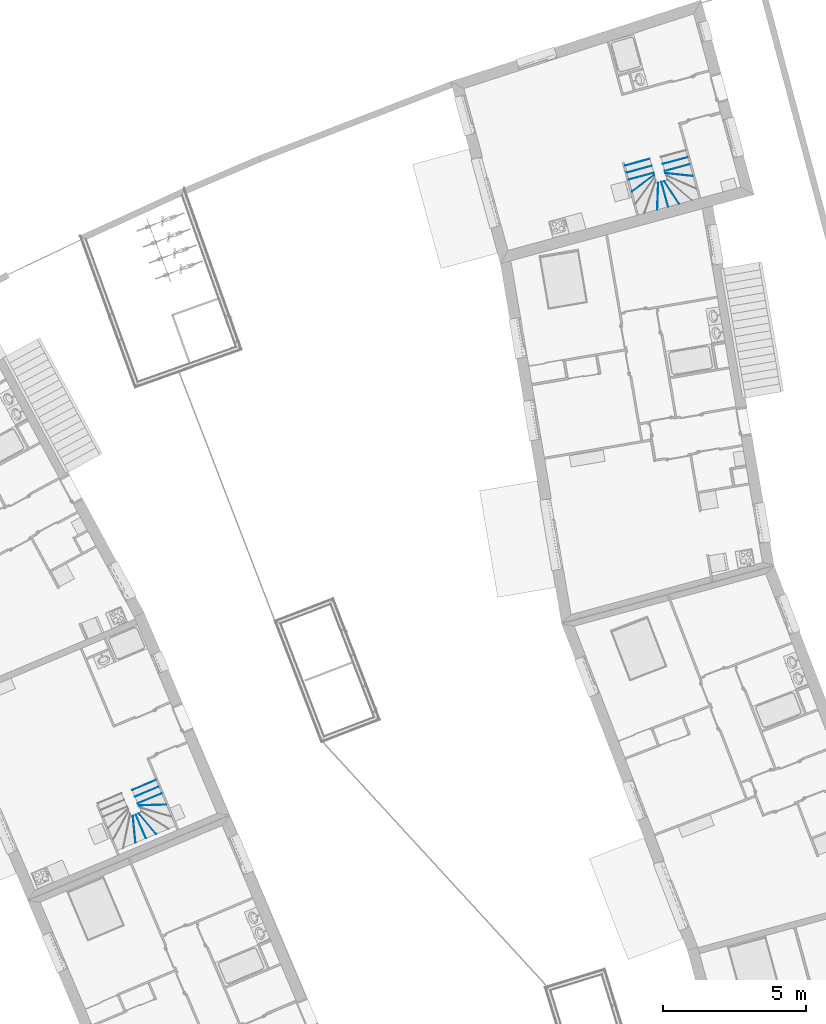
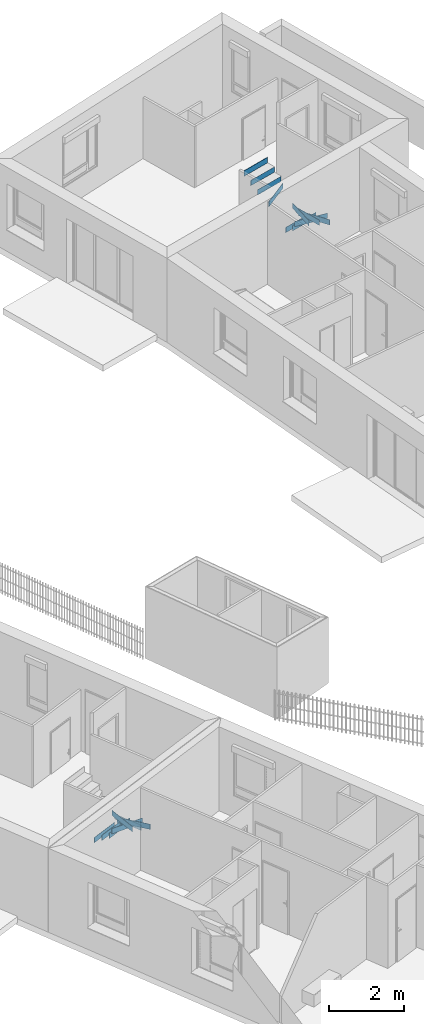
# One storey, part 105 of 195: 33 members, 4 elements without a shape of their own.
"""IFC2X3 building model written with IfcOpenShell, lengths in metres."""

from ifc_helpers import new_model, entity, si_unit, converted_unit, derived_unit, money_unit, direction, frame, origin_with_axes, place, context, subcontext, project, spatial, faceted_brep, material, type_object, element, aggregate, save


model = new_model("IFC2X3")

# Units and contexts
model_context = context("Model", 3, precision=1e-05, world=origin_with_axes(), true_north=direction((0.0, 1.0)))
body_context = subcontext(model_context, "Body", "Model", "MODEL_VIEW")
ifc_project = project(units=[si_unit("LENGTHUNIT", "METRE"), si_unit("AREAUNIT", "SQUARE_METRE"), si_unit("VOLUMEUNIT", "CUBIC_METRE"), converted_unit("PLANEANGLEUNIT", "DEGREE", entity("IfcPlaneAngleMeasure", 0.0174532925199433), si_unit("PLANEANGLEUNIT", "RADIAN"), dimensions=[0, 0, 0, 0, 0, 0, 0]), money_unit("CHF"), converted_unit("TIMEUNIT", "Year", entity("IfcTimeMeasure", 31557600.0), si_unit("TIMEUNIT", "SECOND"), dimensions=[0, 0, 1, 0, 0, 0, 0]), si_unit("MASSUNIT", "GRAM", prefix="KILO"), si_unit("THERMODYNAMICTEMPERATUREUNIT", "DEGREE_CELSIUS"), si_unit("LUMINOUSINTENSITYUNIT", "LUMEN"), si_unit("ENERGYUNIT", "JOULE", prefix="MEGA"), derived_unit("THERMALCONDUCTANCEUNIT", [(si_unit("POWERUNIT", "WATT"), 1), (si_unit("LENGTHUNIT", "METRE"), -1), (si_unit("THERMODYNAMICTEMPERATUREUNIT", "KELVIN"), -1)]), derived_unit("SPECIFICHEATCAPACITYUNIT", [(si_unit("ENERGYUNIT", "JOULE"), 1), (si_unit("MASSUNIT", "GRAM", prefix="KILO"), -1), (si_unit("THERMODYNAMICTEMPERATUREUNIT", "KELVIN"), -1)]), derived_unit("MASSDENSITYUNIT", [(si_unit("MASSUNIT", "GRAM", prefix="KILO"), 1), (si_unit("VOLUMEUNIT", "CUBIC_METRE"), -1)])], contexts=[model_context])

# Site, building, storey
site_placement = place(None, origin_with_axes())
site = spatial("IfcSite", under=ifc_project, at=site_placement, Name="Site", CompositionType="ELEMENT")
building_placement = place(site_placement, origin_with_axes())
building = spatial("IfcBuilding", under=site, at=building_placement, Name="Bâtiment", CompositionType="ELEMENT")
storey_placement = place(building_placement, origin_with_axes())
storey = spatial("IfcBuildingStorey", under=building, at=storey_placement, Name="rdc", CompositionType="ELEMENT", Elevation=0.0)

# Stair, members
stair_1_placement = place(storey_placement, frame((9586.532297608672, -1019.891691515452, 57.0), z_axis=(0.0, 0.0, 1.0), x_axis=(0.2627338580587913, -0.9648683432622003, 0.0)))
stair_1 = element("IfcStair", 1, at=stair_1_placement, inside=storey, Name="ESC-014", ShapeType="NOTDEFINED")
ifc_material = material(Name="Lame d'air 275581351")
member_type = type_object("IfcMemberType", Name="IfcMember", PredefinedType="NOTDEFINED")
member_1_placement = place(stair_1_placement, frame((-0.6126475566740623, -0.426061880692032, 0.3500000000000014), z_axis=(0.0, 0.0, 1.0), x_axis=(2.365009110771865e-07, -0.9999999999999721, 0.0)))
member_1 = element("IfcMember", 2, at=member_1_placement, type_object=member_type, material=ifc_material, Name="C-MARCHE-232", context=body_context, shape_type="Brep", body=[
    faceted_brep([(0.46, 0.01500000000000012, 0.0), (0.46, 0.02500000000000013, 0.0), (-0.44, 0.02500000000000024, 0.0), (-0.44, 0.01500000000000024, 0.0), (0.46, 0.01500000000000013, -0.17), (0.46, 0.02500000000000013, -0.17), (-0.44, 0.02500000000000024, -0.17), (-0.44, 0.01500000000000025, -0.17)], [[[0, 1, 2, 3]], [[0, 4, 5, 1]], [[1, 5, 6, 2]], [[3, 2, 6, 7]], [[4, 0, 3, 7]], [[5, 4, 7, 6]]]),
])
member_2_placement = place(stair_1_placement, frame((-0.3574523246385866, -0.426061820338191, 0.5300000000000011), z_axis=(0.0, 0.0, 1.0), x_axis=(2.365009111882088e-07, -0.999999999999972, 0.0)))
member_2 = element("IfcMember", 3, at=member_2_placement, type_object=member_type, material=ifc_material, Name="C-MARCHE-233", context=body_context, shape_type="Brep", body=[
    faceted_brep([(0.4600000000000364, 0.01499999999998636, 0.0), (0.4600000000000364, 0.02499999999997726, 0.0), (-0.4399999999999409, 0.02499999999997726, 0.0), (-0.4400000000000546, 0.0150000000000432, 0.0), (0.4600000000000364, 0.01499999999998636, -0.1700000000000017), (0.4600000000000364, 0.02499999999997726, -0.1700000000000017), (-0.4399999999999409, 0.02499999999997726, -0.1700000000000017), (-0.4400000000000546, 0.0150000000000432, -0.1700000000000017)], [[[0, 1, 2, 3]], [[0, 4, 5, 1]], [[1, 5, 6, 2]], [[3, 2, 6, 7]], [[4, 0, 3, 7]], [[5, 4, 7, 6]]]),
])
member_3_placement = place(stair_1_placement, frame((-0.1022570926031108, -0.4260617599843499, 0.7100000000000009), z_axis=(0.0, 0.0, 1.0), x_axis=(-0.362570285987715, -0.9319564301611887, 0.0)))
member_3 = element("IfcMember", 4, at=member_3_placement, type_object=member_type, material=ifc_material, Name="C-MARCHE-234", context=body_context, shape_type="Brep", body=[
    faceted_brep([(0.4877497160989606, 0.01500000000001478, 0.0), (0.4838592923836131, 0.02499999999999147, 0.0), (-0.4818511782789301, 0.02500000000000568, 0.0), (-0.4779607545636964, 0.01500000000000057, 0.0), (0.4877497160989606, 0.01500000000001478, -0.1700000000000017), (0.4838592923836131, 0.02499999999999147, -0.1700000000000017), (-0.4818511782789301, 0.02500000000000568, -0.1700000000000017), (-0.4779607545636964, 0.01500000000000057, -0.1700000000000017)], [[[0, 1, 2, 3]], [[0, 4, 5, 1]], [[1, 5, 6, 2]], [[3, 2, 6, 7]], [[4, 0, 3, 7]], [[5, 4, 7, 6]]]),
])
member_4_placement = place(stair_1_placement, frame((0.4561912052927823, -0.8269874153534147, 1.25), z_axis=(0.0, 0.0, 1.0), x_axis=(-0.9542231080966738, -0.2990957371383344, 0.0)))
member_4 = element("IfcMember", 5, at=member_4_placement, type_object=member_type, material=ifc_material, Name="C-MARCHE-237", context=body_context, shape_type="Brep", body=[
    faceted_brep([(0.4827774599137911, 0.01499999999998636, 0.0), (0.4859118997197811, 0.02499999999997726, 0.0), (-0.4572636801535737, 0.02499999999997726, 0.0), (-0.4603981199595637, 0.01499999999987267, 0.0), (0.4827774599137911, 0.01499999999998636, -0.1700000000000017), (0.4859118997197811, 0.02499999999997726, -0.1700000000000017), (-0.4572636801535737, 0.02499999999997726, -0.1700000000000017), (-0.4603981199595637, 0.01499999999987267, -0.1700000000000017)], [[[0, 1, 2, 3]], [[0, 4, 5, 1]], [[1, 5, 6, 2]], [[3, 2, 6, 7]], [[4, 0, 3, 7]], [[5, 4, 7, 6]]]),
])
member_5_placement = place(stair_1_placement, frame((0.4600002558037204, -1.082019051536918, 1.43), z_axis=(0.0, 0.0, 1.0), x_axis=(-0.9999999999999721, -2.364141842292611e-07, 0.0)))
member_5 = element("IfcMember", 6, at=member_5_placement, type_object=member_type, material=ifc_material, Name="C-MARCHE-238", context=body_context, shape_type="Brep", body=[
    faceted_brep([(0.4599999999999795, 0.01499999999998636, 0.0), (0.4599999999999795, 0.02499999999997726, 0.0), (-0.4399999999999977, 0.02499999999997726, 0.0), (-0.4399999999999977, 0.01499999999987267, 0.0), (0.4599999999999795, 0.01499999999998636, -0.1700000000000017), (0.4599999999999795, 0.02499999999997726, -0.1700000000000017), (-0.4399999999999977, 0.02499999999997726, -0.1700000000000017), (-0.4399999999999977, 0.01499999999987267, -0.1700000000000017)], [[[0, 1, 2, 3]], [[0, 4, 5, 1]], [[1, 5, 6, 2]], [[3, 2, 6, 7]], [[4, 0, 3, 7]], [[5, 4, 7, 6]]]),
])
member_6_placement = place(stair_1_placement, frame((0.456191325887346, -1.337050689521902, 1.609999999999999), z_axis=(0.0, 0.0, 1.0), x_axis=(-0.954223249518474, 0.299095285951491, 0.0)))
member_6 = element("IfcMember", 7, at=member_6_placement, type_object=member_type, material=ifc_material, Name="C-MARCHE-239", context=body_context, shape_type="Brep", body=[
    faceted_brep([(0.4733741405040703, 0.01499999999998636, 0.0), (0.4702397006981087, 0.02500000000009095, 0.0), (-0.4729358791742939, 0.02500000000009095, 0.0), (-0.4698014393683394, 0.01500000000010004, 0.0), (0.4733741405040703, 0.01499999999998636, -0.1700000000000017), (0.4702397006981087, 0.02500000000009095, -0.1700000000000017), (-0.4729358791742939, 0.02500000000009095, -0.1700000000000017), (-0.4698014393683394, 0.01500000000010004, -0.1700000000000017)], [[[0, 1, 2, 3]], [[0, 4, 5, 1]], [[1, 5, 6, 2]], [[3, 2, 6, 7]], [[4, 0, 3, 7]], [[5, 4, 7, 6]]]),
])
member_7_placement = place(stair_1_placement, frame((-0.102256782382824, -1.737976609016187, 2.149999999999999), z_axis=(0.0, 0.0, 1.0), x_axis=(-0.3625707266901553, 0.9319562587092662, 0.0)))
member_7 = element("IfcMember", 8, at=member_7_placement, type_object=member_type, material=ifc_material, Name="C-MARCHE-242", context=body_context, shape_type="Brep", body=[
    faceted_brep([(0.4994209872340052, 0.01500000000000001, 0.0), (0.5033114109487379, 0.02500000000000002, 0.0), (-0.462399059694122, 0.0249999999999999, 0.0), (-0.4662894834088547, 0.0149999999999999, 0.0), (0.4994209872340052, 0.01500000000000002, -0.1700000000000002), (0.5033114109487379, 0.02500000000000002, -0.1700000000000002), (-0.462399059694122, 0.02499999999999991, -0.1700000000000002), (-0.4662894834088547, 0.01499999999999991, -0.1700000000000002)], [[[0, 1, 2, 3]], [[0, 4, 5, 1]], [[1, 5, 6, 2]], [[3, 2, 6, 7]], [[4, 0, 3, 7]], [[5, 4, 7, 6]]]),
])
member_8_placement = place(stair_1_placement, frame((-0.3574520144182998, -1.737976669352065, 2.329999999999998), z_axis=(0.0, 0.0, 1.0), x_axis=(-2.364303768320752e-07, 0.9999999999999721, 0.0)))
member_8 = element("IfcMember", 9, at=member_8_placement, type_object=member_type, material=ifc_material, Name="C-MARCHE-243", context=body_context, shape_type="Brep", body=[
    faceted_brep([(0.4600000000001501, 0.01499999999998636, 0.0), (0.4600000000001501, 0.02499999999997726, 0.0), (-0.4399999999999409, 0.02500000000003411, 0.0), (-0.4399999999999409, 0.01499999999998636, 0.0), (0.4600000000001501, 0.01499999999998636, -0.1700000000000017), (0.4600000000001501, 0.02499999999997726, -0.1700000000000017), (-0.4399999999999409, 0.02500000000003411, -0.1700000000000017), (-0.4399999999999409, 0.01499999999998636, -0.1700000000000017)], [[[0, 1, 2, 3]], [[0, 4, 5, 1]], [[1, 5, 6, 2]], [[3, 2, 6, 7]], [[4, 0, 3, 7]], [[5, 4, 7, 6]]]),
])
member_9_placement = place(stair_1_placement, frame((-0.8678424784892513, -1.737976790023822, 2.700000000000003), z_axis=(0.0, 0.0, 1.0), x_axis=(-2.364303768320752e-07, 0.9999999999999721, 0.0)))
member_9 = element("IfcMember", 10, at=member_9_placement, type_object=member_type, material=ifc_material, Name="C-MARCHE-245", context=body_context, shape_type="Brep", body=[
    faceted_brep([(0.4599999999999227, 0.0150000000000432, 0.0), (0.4599999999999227, 0.02500000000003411, 0.0), (-0.4400000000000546, 0.02500000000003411, 0.0), (-0.4400000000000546, 0.01499999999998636, 0.0), (0.4599999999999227, 0.0150000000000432, -0.1799999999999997), (0.4599999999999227, 0.02500000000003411, -0.1799999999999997), (-0.4400000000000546, 0.02500000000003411, -0.1799999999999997), (-0.4400000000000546, 0.01499999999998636, -0.1799999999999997)], [[[0, 1, 2, 3]], [[0, 4, 5, 1]], [[1, 5, 6, 2]], [[3, 2, 6, 7]], [[4, 0, 3, 7]], [[5, 4, 7, 6]]]),
])
member_10_placement = place(stair_1_placement, frame((-0.6126472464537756, -1.73797672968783, 2.509999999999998), z_axis=(0.0, 0.0, 1.0), x_axis=(-2.364303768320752e-07, 0.9999999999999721, 0.0)))
member_10 = element("IfcMember", 11, at=member_10_placement, type_object=member_type, material=ifc_material, Name="C-MARCHE-244", context=body_context, shape_type="Brep", body=[
    faceted_brep([(0.4600000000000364, 0.01499999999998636, 0.0), (0.4600000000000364, 0.02499999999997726, 0.0), (-0.4399999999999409, 0.02500000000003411, 0.0), (-0.4399999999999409, 0.01499999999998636, 0.0), (0.4600000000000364, 0.01499999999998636, -0.1700000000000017), (0.4600000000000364, 0.02499999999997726, -0.1700000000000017), (-0.4399999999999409, 0.02500000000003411, -0.1700000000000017), (-0.4399999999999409, 0.01499999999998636, -0.1700000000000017)], [[[0, 1, 2, 3]], [[0, 4, 5, 1]], [[1, 5, 6, 2]], [[3, 2, 6, 7]], [[4, 0, 3, 7]], [[5, 4, 7, 6]]]),
])
aggregate(stair_1, [member_1, member_2, member_3, member_4, member_5, member_6, member_7, member_8, member_9, member_10])

stair_2_placement = place(storey_placement, frame((9568.089270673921, -1041.901953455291, 57.0), z_axis=(0.0, 0.0, 1.0), x_axis=(0.3885666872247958, -0.9214206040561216, 0.0)))
stair_2 = element("IfcStair", 12, at=stair_2_placement, inside=storey, Name="ESC-014", ShapeType="NOTDEFINED")
member_11_placement = place(stair_2_placement, frame((-0.6126475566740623, -0.4260618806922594, 0.3500000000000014), z_axis=(0.0, 0.0, 1.0), x_axis=(2.365009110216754e-07, -0.999999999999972, 0.0)))
member_11 = element("IfcMember", 13, at=member_11_placement, type_object=member_type, material=ifc_material, Name="C-MARCHE-232", context=body_context, shape_type="Brep", body=[
    faceted_brep([(0.46, 0.01500000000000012, 0.0), (0.46, 0.02500000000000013, 0.0), (-0.44, 0.02500000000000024, 0.0), (-0.44, 0.01500000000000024, 0.0), (0.46, 0.01500000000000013, -0.17), (0.46, 0.02500000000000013, -0.17), (-0.44, 0.02500000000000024, -0.17), (-0.44, 0.01500000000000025, -0.17)], [[[0, 1, 2, 3]], [[0, 4, 5, 1]], [[1, 5, 6, 2]], [[3, 2, 6, 7]], [[4, 0, 3, 7]], [[5, 4, 7, 6]]]),
])
member_12_placement = place(stair_2_placement, frame((-0.3574523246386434, -0.4260618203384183, 0.5300000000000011), z_axis=(0.0, 0.0, 1.0), x_axis=(2.3650091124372e-07, -0.999999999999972, 0.0)))
member_12 = element("IfcMember", 14, at=member_12_placement, type_object=member_type, material=ifc_material, Name="C-MARCHE-233", context=body_context, shape_type="Brep", body=[
    faceted_brep([(0.4599999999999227, 0.0150000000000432, 0.0), (0.4599999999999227, 0.02500000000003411, 0.0), (-0.4400000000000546, 0.02500000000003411, 0.0), (-0.4400000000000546, 0.0150000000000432, 0.0), (0.4599999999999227, 0.0150000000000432, -0.1700000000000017), (0.4599999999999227, 0.02500000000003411, -0.1700000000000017), (-0.4400000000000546, 0.02500000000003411, -0.1700000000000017), (-0.4400000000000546, 0.0150000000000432, -0.1700000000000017)], [[[0, 1, 2, 3]], [[0, 4, 5, 1]], [[1, 5, 6, 2]], [[3, 2, 6, 7]], [[4, 0, 3, 7]], [[5, 4, 7, 6]]]),
])
member_13_placement = place(stair_2_placement, frame((-0.1022570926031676, -0.4260617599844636, 0.7100000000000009), z_axis=(0.0, 0.0, 1.0), x_axis=(-0.362570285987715, -0.9319564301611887, 0.0)))
member_13 = element("IfcMember", 15, at=member_13_placement, type_object=member_type, material=ifc_material, Name="C-MARCHE-234", context=body_context, shape_type="Brep", body=[
    faceted_brep([(0.4877497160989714, 0.01500000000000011, 0.0), (0.483859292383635, 0.02500000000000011, 0.0), (-0.4818511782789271, 0.02500000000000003, 0.0), (-0.4779607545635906, 0.01500000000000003, 0.0), (0.4877497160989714, 0.01500000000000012, -0.17), (0.483859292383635, 0.02500000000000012, -0.17), (-0.4818511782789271, 0.02500000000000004, -0.17), (-0.4779607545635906, 0.01500000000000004, -0.17)], [[[0, 1, 2, 3]], [[0, 4, 5, 1]], [[1, 5, 6, 2]], [[3, 2, 6, 7]], [[4, 0, 3, 7]], [[5, 4, 7, 6]]]),
])
member_14_placement = place(stair_2_placement, frame((-0.8678427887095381, -0.4260619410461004, 0.1700000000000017), z_axis=(0.0, 0.0, 1.0), x_axis=(2.3650091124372e-07, -0.999999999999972, 0.0)))
member_14 = element("IfcMember", 16, at=member_14_placement, type_object=member_type, material=ifc_material, Name="C-MARCHE-231", context=body_context, shape_type="Brep", body=[
    faceted_brep([(0.46, 0.01500000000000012, 0.0), (0.46, 0.02500000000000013, 0.0), (-0.44, 0.02500000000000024, 0.0), (-0.44, 0.01500000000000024, 0.0), (0.46, 0.01500000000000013, -0.17), (0.46, 0.02500000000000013, -0.17), (-0.44, 0.02500000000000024, -0.17), (-0.44, 0.01500000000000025, -0.17)], [[[0, 1, 2, 3]], [[0, 4, 5, 1]], [[1, 5, 6, 2]], [[3, 2, 6, 7]], [[4, 0, 3, 7]], [[5, 4, 7, 6]]]),
])
member_15_placement = place(stair_2_placement, frame((0.4561912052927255, -0.8269874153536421, 1.25), z_axis=(0.0, 0.0, 1.0), x_axis=(-0.9542231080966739, -0.2990957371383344, 0.0)))
member_15 = element("IfcMember", 17, at=member_15_placement, type_object=member_type, material=ifc_material, Name="C-MARCHE-237", context=body_context, shape_type="Brep", body=[
    faceted_brep([(0.4827774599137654, 0.01499999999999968, 0.0), (0.4859118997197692, 0.02499999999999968, 0.0), (-0.4572636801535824, 0.02499999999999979, 0.0), (-0.4603981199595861, 0.01499999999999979, 0.0), (0.4827774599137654, 0.01499999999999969, -0.1700000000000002), (0.4859118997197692, 0.02499999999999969, -0.1700000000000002), (-0.4572636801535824, 0.0249999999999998, -0.1700000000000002), (-0.4603981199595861, 0.0149999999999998, -0.1700000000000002)], [[[0, 1, 2, 3]], [[0, 4, 5, 1]], [[1, 5, 6, 2]], [[3, 2, 6, 7]], [[4, 0, 3, 7]], [[5, 4, 7, 6]]]),
])
member_16_placement = place(stair_2_placement, frame((0.456191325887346, -1.337050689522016, 1.609999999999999), z_axis=(0.0, 0.0, 1.0), x_axis=(-0.954223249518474, 0.299095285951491, 0.0)))
member_16 = element("IfcMember", 18, at=member_16_placement, type_object=member_type, material=ifc_material, Name="C-MARCHE-239", context=body_context, shape_type="Brep", body=[
    faceted_brep([(0.4733741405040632, 0.01499999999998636, 0.0), (0.4702397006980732, 0.02499999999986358, 0.0), (-0.4729358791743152, 0.02499999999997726, 0.0), (-0.4698014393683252, 0.01499999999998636, 0.0), (0.4733741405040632, 0.01499999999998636, -0.1700000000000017), (0.4702397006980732, 0.02499999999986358, -0.1700000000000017), (-0.4729358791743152, 0.02499999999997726, -0.1700000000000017), (-0.4698014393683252, 0.01499999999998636, -0.1700000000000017)], [[[0, 1, 2, 3]], [[0, 4, 5, 1]], [[1, 5, 6, 2]], [[3, 2, 6, 7]], [[4, 0, 3, 7]], [[5, 4, 7, 6]]]),
])
aggregate(stair_2, [member_11, member_12, member_13, member_14, member_15, member_16])

stair_3_placement = place(storey_placement, frame((9586.532297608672, -1019.891691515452, 57.0), z_axis=(0.0, 0.0, 1.0), x_axis=(0.2627338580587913, -0.9648683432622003, 0.0)))
stair_3 = element("IfcStair", 19, at=stair_3_placement, inside=storey, Name="ESC-014", ShapeType="NOTDEFINED")
member_17_placement = place(stair_3_placement, frame((-0.6126475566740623, -0.426061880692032, 0.3500000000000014), z_axis=(0.0, 0.0, 1.0), x_axis=(2.365009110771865e-07, -0.9999999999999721, 0.0)))
member_17 = element("IfcMember", 20, at=member_17_placement, type_object=member_type, material=ifc_material, Name="C-MARCHE-232", context=body_context, shape_type="Brep", body=[
    faceted_brep([(0.46, 0.01500000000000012, 0.0), (0.46, 0.02500000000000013, 0.0), (-0.44, 0.02500000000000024, 0.0), (-0.44, 0.01500000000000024, 0.0), (0.46, 0.01500000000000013, -0.17), (0.46, 0.02500000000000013, -0.17), (-0.44, 0.02500000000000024, -0.17), (-0.44, 0.01500000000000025, -0.17)], [[[0, 1, 2, 3]], [[0, 4, 5, 1]], [[1, 5, 6, 2]], [[3, 2, 6, 7]], [[4, 0, 3, 7]], [[5, 4, 7, 6]]]),
])
member_18_placement = place(stair_3_placement, frame((-0.3574523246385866, -0.426061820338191, 0.5300000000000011), z_axis=(0.0, 0.0, 1.0), x_axis=(2.365009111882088e-07, -0.999999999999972, 0.0)))
member_18 = element("IfcMember", 21, at=member_18_placement, type_object=member_type, material=ifc_material, Name="C-MARCHE-233", context=body_context, shape_type="Brep", body=[
    faceted_brep([(0.4600000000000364, 0.01499999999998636, 0.0), (0.4600000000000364, 0.02499999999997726, 0.0), (-0.4399999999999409, 0.02499999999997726, 0.0), (-0.4400000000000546, 0.0150000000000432, 0.0), (0.4600000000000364, 0.01499999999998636, -0.1700000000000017), (0.4600000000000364, 0.02499999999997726, -0.1700000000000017), (-0.4399999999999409, 0.02499999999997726, -0.1700000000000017), (-0.4400000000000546, 0.0150000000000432, -0.1700000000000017)], [[[0, 1, 2, 3]], [[0, 4, 5, 1]], [[1, 5, 6, 2]], [[3, 2, 6, 7]], [[4, 0, 3, 7]], [[5, 4, 7, 6]]]),
])
member_19_placement = place(stair_3_placement, frame((-0.1022570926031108, -0.4260617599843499, 0.7100000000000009), z_axis=(0.0, 0.0, 1.0), x_axis=(-0.362570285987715, -0.9319564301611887, 0.0)))
member_19 = element("IfcMember", 22, at=member_19_placement, type_object=member_type, material=ifc_material, Name="C-MARCHE-234", context=body_context, shape_type="Brep", body=[
    faceted_brep([(0.4877497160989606, 0.01500000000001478, 0.0), (0.4838592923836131, 0.02499999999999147, 0.0), (-0.4818511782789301, 0.02500000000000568, 0.0), (-0.4779607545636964, 0.01500000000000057, 0.0), (0.4877497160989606, 0.01500000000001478, -0.1700000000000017), (0.4838592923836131, 0.02499999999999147, -0.1700000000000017), (-0.4818511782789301, 0.02500000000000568, -0.1700000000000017), (-0.4779607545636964, 0.01500000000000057, -0.1700000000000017)], [[[0, 1, 2, 3]], [[0, 4, 5, 1]], [[1, 5, 6, 2]], [[3, 2, 6, 7]], [[4, 0, 3, 7]], [[5, 4, 7, 6]]]),
])
member_20_placement = place(stair_3_placement, frame((0.4561912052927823, -0.8269874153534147, 1.25), z_axis=(0.0, 0.0, 1.0), x_axis=(-0.9542231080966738, -0.2990957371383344, 0.0)))
member_20 = element("IfcMember", 23, at=member_20_placement, type_object=member_type, material=ifc_material, Name="C-MARCHE-237", context=body_context, shape_type="Brep", body=[
    faceted_brep([(0.4827774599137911, 0.01499999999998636, 0.0), (0.4859118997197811, 0.02499999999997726, 0.0), (-0.4572636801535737, 0.02499999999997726, 0.0), (-0.4603981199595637, 0.01499999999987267, 0.0), (0.4827774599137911, 0.01499999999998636, -0.1700000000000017), (0.4859118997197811, 0.02499999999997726, -0.1700000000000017), (-0.4572636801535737, 0.02499999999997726, -0.1700000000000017), (-0.4603981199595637, 0.01499999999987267, -0.1700000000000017)], [[[0, 1, 2, 3]], [[0, 4, 5, 1]], [[1, 5, 6, 2]], [[3, 2, 6, 7]], [[4, 0, 3, 7]], [[5, 4, 7, 6]]]),
])
member_21_placement = place(stair_3_placement, frame((0.4600002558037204, -1.082019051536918, 1.43), z_axis=(0.0, 0.0, 1.0), x_axis=(-0.9999999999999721, -2.364141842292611e-07, 0.0)))
member_21 = element("IfcMember", 24, at=member_21_placement, type_object=member_type, material=ifc_material, Name="C-MARCHE-238", context=body_context, shape_type="Brep", body=[
    faceted_brep([(0.4599999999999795, 0.01499999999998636, 0.0), (0.4599999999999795, 0.02499999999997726, 0.0), (-0.4399999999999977, 0.02499999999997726, 0.0), (-0.4399999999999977, 0.01499999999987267, 0.0), (0.4599999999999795, 0.01499999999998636, -0.1700000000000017), (0.4599999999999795, 0.02499999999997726, -0.1700000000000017), (-0.4399999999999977, 0.02499999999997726, -0.1700000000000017), (-0.4399999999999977, 0.01499999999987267, -0.1700000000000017)], [[[0, 1, 2, 3]], [[0, 4, 5, 1]], [[1, 5, 6, 2]], [[3, 2, 6, 7]], [[4, 0, 3, 7]], [[5, 4, 7, 6]]]),
])
member_22_placement = place(stair_3_placement, frame((0.456191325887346, -1.337050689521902, 1.609999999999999), z_axis=(0.0, 0.0, 1.0), x_axis=(-0.954223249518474, 0.299095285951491, 0.0)))
member_22 = element("IfcMember", 25, at=member_22_placement, type_object=member_type, material=ifc_material, Name="C-MARCHE-239", context=body_context, shape_type="Brep", body=[
    faceted_brep([(0.4733741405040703, 0.01499999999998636, 0.0), (0.4702397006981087, 0.02500000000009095, 0.0), (-0.4729358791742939, 0.02500000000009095, 0.0), (-0.4698014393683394, 0.01500000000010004, 0.0), (0.4733741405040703, 0.01499999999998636, -0.1700000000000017), (0.4702397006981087, 0.02500000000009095, -0.1700000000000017), (-0.4729358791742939, 0.02500000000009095, -0.1700000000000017), (-0.4698014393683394, 0.01500000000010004, -0.1700000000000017)], [[[0, 1, 2, 3]], [[0, 4, 5, 1]], [[1, 5, 6, 2]], [[3, 2, 6, 7]], [[4, 0, 3, 7]], [[5, 4, 7, 6]]]),
])
member_23_placement = place(stair_3_placement, frame((-0.102256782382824, -1.737976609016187, 2.149999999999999), z_axis=(0.0, 0.0, 1.0), x_axis=(-0.3625707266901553, 0.9319562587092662, 0.0)))
member_23 = element("IfcMember", 26, at=member_23_placement, type_object=member_type, material=ifc_material, Name="C-MARCHE-242", context=body_context, shape_type="Brep", body=[
    faceted_brep([(0.4994209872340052, 0.01500000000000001, 0.0), (0.5033114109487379, 0.02500000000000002, 0.0), (-0.462399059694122, 0.0249999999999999, 0.0), (-0.4662894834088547, 0.0149999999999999, 0.0), (0.4994209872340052, 0.01500000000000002, -0.1700000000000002), (0.5033114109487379, 0.02500000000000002, -0.1700000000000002), (-0.462399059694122, 0.02499999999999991, -0.1700000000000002), (-0.4662894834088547, 0.01499999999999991, -0.1700000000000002)], [[[0, 1, 2, 3]], [[0, 4, 5, 1]], [[1, 5, 6, 2]], [[3, 2, 6, 7]], [[4, 0, 3, 7]], [[5, 4, 7, 6]]]),
])
member_24_placement = place(stair_3_placement, frame((-0.6126472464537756, -1.73797672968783, 2.509999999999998), z_axis=(0.0, 0.0, 1.0), x_axis=(-2.364303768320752e-07, 0.9999999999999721, 0.0)))
member_24 = element("IfcMember", 27, at=member_24_placement, type_object=member_type, material=ifc_material, Name="C-MARCHE-244", context=body_context, shape_type="Brep", body=[
    faceted_brep([(0.4600000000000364, 0.01499999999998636, 0.0), (0.4600000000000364, 0.02499999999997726, 0.0), (-0.4399999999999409, 0.02500000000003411, 0.0), (-0.4399999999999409, 0.01499999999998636, 0.0), (0.4600000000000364, 0.01499999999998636, -0.1700000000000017), (0.4600000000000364, 0.02499999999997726, -0.1700000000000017), (-0.4399999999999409, 0.02500000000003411, -0.1700000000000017), (-0.4399999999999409, 0.01499999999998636, -0.1700000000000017)], [[[0, 1, 2, 3]], [[0, 4, 5, 1]], [[1, 5, 6, 2]], [[3, 2, 6, 7]], [[4, 0, 3, 7]], [[5, 4, 7, 6]]]),
])
member_25_placement = place(stair_3_placement, frame((-0.8678424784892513, -1.737976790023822, 2.700000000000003), z_axis=(0.0, 0.0, 1.0), x_axis=(-2.364303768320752e-07, 0.9999999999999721, 0.0)))
member_25 = element("IfcMember", 28, at=member_25_placement, type_object=member_type, material=ifc_material, Name="C-MARCHE-245", context=body_context, shape_type="Brep", body=[
    faceted_brep([(0.4599999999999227, 0.0150000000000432, 0.0), (0.4599999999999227, 0.02500000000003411, 0.0), (-0.4400000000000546, 0.02500000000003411, 0.0), (-0.4400000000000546, 0.01499999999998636, 0.0), (0.4599999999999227, 0.0150000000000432, -0.1799999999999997), (0.4599999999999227, 0.02500000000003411, -0.1799999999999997), (-0.4400000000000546, 0.02500000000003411, -0.1799999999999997), (-0.4400000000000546, 0.01499999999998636, -0.1799999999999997)], [[[0, 1, 2, 3]], [[0, 4, 5, 1]], [[1, 5, 6, 2]], [[3, 2, 6, 7]], [[4, 0, 3, 7]], [[5, 4, 7, 6]]]),
])
member_26_placement = place(stair_3_placement, frame((-0.3574520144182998, -1.737976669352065, 2.329999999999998), z_axis=(0.0, 0.0, 1.0), x_axis=(-2.364303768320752e-07, 0.9999999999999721, 0.0)))
member_26 = element("IfcMember", 29, at=member_26_placement, type_object=member_type, material=ifc_material, Name="C-MARCHE-243", context=body_context, shape_type="Brep", body=[
    faceted_brep([(0.4600000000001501, 0.01499999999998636, 0.0), (0.4600000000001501, 0.02499999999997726, 0.0), (-0.4399999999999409, 0.02500000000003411, 0.0), (-0.4399999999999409, 0.01499999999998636, 0.0), (0.4600000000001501, 0.01499999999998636, -0.1700000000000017), (0.4600000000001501, 0.02499999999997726, -0.1700000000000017), (-0.4399999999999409, 0.02500000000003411, -0.1700000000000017), (-0.4399999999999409, 0.01499999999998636, -0.1700000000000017)], [[[0, 1, 2, 3]], [[0, 4, 5, 1]], [[1, 5, 6, 2]], [[3, 2, 6, 7]], [[4, 0, 3, 7]], [[5, 4, 7, 6]]]),
])
aggregate(stair_3, [member_17, member_18, member_19, member_20, member_21, member_22, member_23, member_24, member_25, member_26])

stair_4_placement = place(storey_placement, frame((9568.089270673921, -1041.901953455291, 57.0), z_axis=(0.0, 0.0, 1.0), x_axis=(0.3885666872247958, -0.9214206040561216, 0.0)))
stair_4 = element("IfcStair", 30, at=stair_4_placement, inside=storey, Name="ESC-014", ShapeType="NOTDEFINED")
member_27_placement = place(stair_4_placement, frame((-0.8678427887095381, -0.4260619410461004, 0.1700000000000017), z_axis=(0.0, 0.0, 1.0), x_axis=(2.3650091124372e-07, -0.999999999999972, 0.0)))
member_27 = element("IfcMember", 31, at=member_27_placement, type_object=member_type, material=ifc_material, Name="C-MARCHE-231", context=body_context, shape_type="Brep", body=[
    faceted_brep([(0.46, 0.01500000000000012, 0.0), (0.46, 0.02500000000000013, 0.0), (-0.44, 0.02500000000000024, 0.0), (-0.44, 0.01500000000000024, 0.0), (0.46, 0.01500000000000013, -0.17), (0.46, 0.02500000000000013, -0.17), (-0.44, 0.02500000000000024, -0.17), (-0.44, 0.01500000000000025, -0.17)], [[[0, 1, 2, 3]], [[0, 4, 5, 1]], [[1, 5, 6, 2]], [[3, 2, 6, 7]], [[4, 0, 3, 7]], [[5, 4, 7, 6]]]),
])
member_28_placement = place(stair_4_placement, frame((-0.3574523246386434, -0.4260618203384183, 0.5300000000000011), z_axis=(0.0, 0.0, 1.0), x_axis=(2.3650091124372e-07, -0.999999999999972, 0.0)))
member_28 = element("IfcMember", 32, at=member_28_placement, type_object=member_type, material=ifc_material, Name="C-MARCHE-233", context=body_context, shape_type="Brep", body=[
    faceted_brep([(0.4599999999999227, 0.0150000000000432, 0.0), (0.4599999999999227, 0.02500000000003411, 0.0), (-0.4400000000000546, 0.02500000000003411, 0.0), (-0.4400000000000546, 0.0150000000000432, 0.0), (0.4599999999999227, 0.0150000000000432, -0.1700000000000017), (0.4599999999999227, 0.02500000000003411, -0.1700000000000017), (-0.4400000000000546, 0.02500000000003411, -0.1700000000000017), (-0.4400000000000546, 0.0150000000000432, -0.1700000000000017)], [[[0, 1, 2, 3]], [[0, 4, 5, 1]], [[1, 5, 6, 2]], [[3, 2, 6, 7]], [[4, 0, 3, 7]], [[5, 4, 7, 6]]]),
])
member_29_placement = place(stair_4_placement, frame((-0.1022570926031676, -0.4260617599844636, 0.7100000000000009), z_axis=(0.0, 0.0, 1.0), x_axis=(-0.362570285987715, -0.9319564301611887, 0.0)))
member_29 = element("IfcMember", 33, at=member_29_placement, type_object=member_type, material=ifc_material, Name="C-MARCHE-234", context=body_context, shape_type="Brep", body=[
    faceted_brep([(0.4877497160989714, 0.01500000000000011, 0.0), (0.483859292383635, 0.02500000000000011, 0.0), (-0.4818511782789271, 0.02500000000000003, 0.0), (-0.4779607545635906, 0.01500000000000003, 0.0), (0.4877497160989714, 0.01500000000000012, -0.17), (0.483859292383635, 0.02500000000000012, -0.17), (-0.4818511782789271, 0.02500000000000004, -0.17), (-0.4779607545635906, 0.01500000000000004, -0.17)], [[[0, 1, 2, 3]], [[0, 4, 5, 1]], [[1, 5, 6, 2]], [[3, 2, 6, 7]], [[4, 0, 3, 7]], [[5, 4, 7, 6]]]),
])
member_30_placement = place(stair_4_placement, frame((-0.6126475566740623, -0.4260618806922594, 0.3500000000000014), z_axis=(0.0, 0.0, 1.0), x_axis=(2.365009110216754e-07, -0.999999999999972, 0.0)))
member_30 = element("IfcMember", 34, at=member_30_placement, type_object=member_type, material=ifc_material, Name="C-MARCHE-232", context=body_context, shape_type="Brep", body=[
    faceted_brep([(0.46, 0.01500000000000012, 0.0), (0.46, 0.02500000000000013, 0.0), (-0.44, 0.02500000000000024, 0.0), (-0.44, 0.01500000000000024, 0.0), (0.46, 0.01500000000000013, -0.17), (0.46, 0.02500000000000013, -0.17), (-0.44, 0.02500000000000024, -0.17), (-0.44, 0.01500000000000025, -0.17)], [[[0, 1, 2, 3]], [[0, 4, 5, 1]], [[1, 5, 6, 2]], [[3, 2, 6, 7]], [[4, 0, 3, 7]], [[5, 4, 7, 6]]]),
])
member_31_placement = place(stair_4_placement, frame((0.4561912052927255, -0.8269874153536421, 1.25), z_axis=(0.0, 0.0, 1.0), x_axis=(-0.9542231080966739, -0.2990957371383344, 0.0)))
member_31 = element("IfcMember", 35, at=member_31_placement, type_object=member_type, material=ifc_material, Name="C-MARCHE-237", context=body_context, shape_type="Brep", body=[
    faceted_brep([(0.4827774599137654, 0.01499999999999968, 0.0), (0.4859118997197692, 0.02499999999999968, 0.0), (-0.4572636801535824, 0.02499999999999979, 0.0), (-0.4603981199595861, 0.01499999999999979, 0.0), (0.4827774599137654, 0.01499999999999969, -0.1700000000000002), (0.4859118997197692, 0.02499999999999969, -0.1700000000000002), (-0.4572636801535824, 0.0249999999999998, -0.1700000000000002), (-0.4603981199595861, 0.0149999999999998, -0.1700000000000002)], [[[0, 1, 2, 3]], [[0, 4, 5, 1]], [[1, 5, 6, 2]], [[3, 2, 6, 7]], [[4, 0, 3, 7]], [[5, 4, 7, 6]]]),
])
member_32_placement = place(stair_4_placement, frame((0.4600002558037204, -1.082019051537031, 1.43), z_axis=(0.0, 0.0, 1.0), x_axis=(-0.9999999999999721, -2.364141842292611e-07, 0.0)))
member_32 = element("IfcMember", 36, at=member_32_placement, type_object=member_type, material=ifc_material, Name="C-MARCHE-238", context=body_context, shape_type="Brep", body=[
    faceted_brep([(0.4599999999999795, 0.01499999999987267, 0.0), (0.4600000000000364, 0.02499999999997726, 0.0), (-0.4400000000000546, 0.02499999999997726, 0.0), (-0.4399999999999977, 0.01499999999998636, 0.0), (0.4599999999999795, 0.01499999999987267, -0.1700000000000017), (0.4600000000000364, 0.02499999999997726, -0.1700000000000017), (-0.4400000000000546, 0.02499999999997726, -0.1700000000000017), (-0.4399999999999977, 0.01499999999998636, -0.1700000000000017)], [[[0, 1, 2, 3]], [[0, 4, 5, 1]], [[1, 5, 6, 2]], [[3, 2, 6, 7]], [[4, 0, 3, 7]], [[5, 4, 7, 6]]]),
])
member_33_placement = place(stair_4_placement, frame((0.456191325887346, -1.337050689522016, 1.609999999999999), z_axis=(0.0, 0.0, 1.0), x_axis=(-0.954223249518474, 0.299095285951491, 0.0)))
member_33 = element("IfcMember", 37, at=member_33_placement, type_object=member_type, material=ifc_material, Name="C-MARCHE-239", context=body_context, shape_type="Brep", body=[
    faceted_brep([(0.4733741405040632, 0.01499999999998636, 0.0), (0.4702397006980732, 0.02499999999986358, 0.0), (-0.4729358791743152, 0.02499999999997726, 0.0), (-0.4698014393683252, 0.01499999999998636, 0.0), (0.4733741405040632, 0.01499999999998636, -0.1700000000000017), (0.4702397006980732, 0.02499999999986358, -0.1700000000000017), (-0.4729358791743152, 0.02499999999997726, -0.1700000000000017), (-0.4698014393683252, 0.01499999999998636, -0.1700000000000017)], [[[0, 1, 2, 3]], [[0, 4, 5, 1]], [[1, 5, 6, 2]], [[3, 2, 6, 7]], [[4, 0, 3, 7]], [[5, 4, 7, 6]]]),
])
aggregate(stair_4, [member_27, member_28, member_29, member_30, member_31, member_32, member_33])

save(model, "model.ifc")
